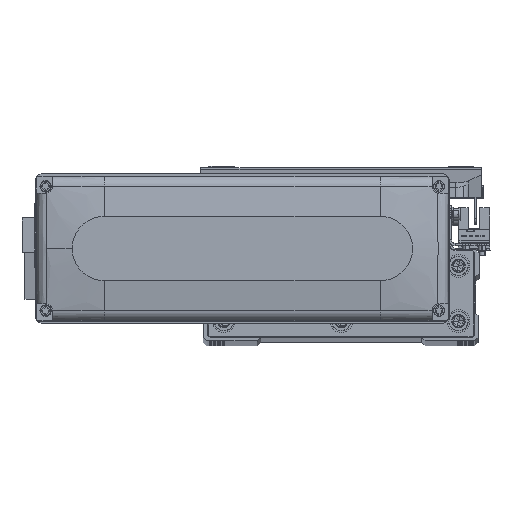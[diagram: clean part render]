
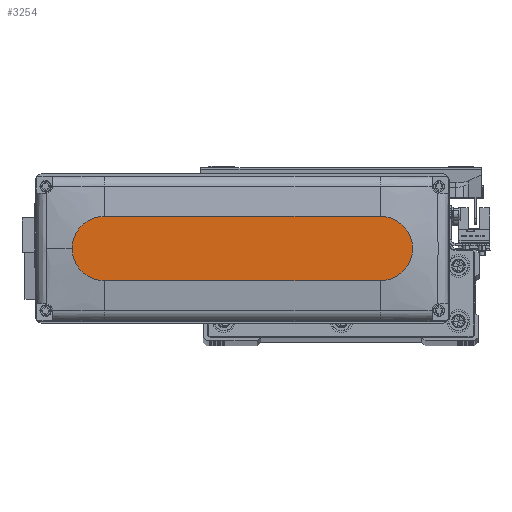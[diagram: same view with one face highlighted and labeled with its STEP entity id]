
A CAD part, top view. The second image highlights one B-rep face of the part: STEP entity #3254.
In plain terms, the highlighted planar face has unit normal (0, 0, 1).
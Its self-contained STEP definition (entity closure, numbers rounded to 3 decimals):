
#1863 = PLANE ( 'NONE',  #49221 ) ;
#1939 = DIRECTION ( 'NONE',  ( 1., 0., 0. ) ) ;
#2299 = EDGE_CURVE ( 'NONE', #3271, #24971, #29051, .T. ) ;
#3135 = CIRCLE ( 'NONE', #31141, 14. ) ;
#3254 = ADVANCED_FACE ( 'NONE', ( #35949 ), #1863, .T. ) ;
#3271 = VERTEX_POINT ( 'NONE', #28696 ) ;
#4261 = ORIENTED_EDGE ( 'NONE', *, *, #2299, .T. ) ;
#5719 = CARTESIAN_POINT ( 'NONE',  ( 60., 0., 28.5 ) ) ;
#5920 = VERTEX_POINT ( 'NONE', #25290 ) ;
#6472 = CIRCLE ( 'NONE', #29726, 14. ) ;
#8273 = CARTESIAN_POINT ( 'NONE',  ( 60., 0., 28.5 ) ) ;
#8317 = CARTESIAN_POINT ( 'NONE',  ( 74., 0., 28.5 ) ) ;
#13751 = DIRECTION ( 'NONE',  ( 0., 0., 1. ) ) ;
#17736 = CARTESIAN_POINT ( 'NONE',  ( -60., 0., 28.5 ) ) ;
#18294 = CARTESIAN_POINT ( 'NONE',  ( -60., 14., 28.5 ) ) ;
#19339 = DIRECTION ( 'NONE',  ( 1., 0., 0. ) ) ;
#20190 = CARTESIAN_POINT ( 'NONE',  ( 0., 0., 28.5 ) ) ;
#20545 = DIRECTION ( 'NONE',  ( -1., 0., 0. ) ) ;
#22903 = CARTESIAN_POINT ( 'NONE',  ( 60., -14., 28.5 ) ) ;
#23771 = CARTESIAN_POINT ( 'NONE',  ( -60., -14., 28.5 ) ) ;
#24182 = DIRECTION ( 'NONE',  ( 1., 0., 0. ) ) ;
#24203 = CIRCLE ( 'NONE', #36213, 14. ) ;
#24379 = LINE ( 'NONE', #23771, #31245 ) ;
#24523 = VECTOR ( 'NONE', #20545, 1000. ) ;
#24739 = EDGE_CURVE ( 'NONE', #33046, #3271, #3135, .T. ) ;
#24971 = VERTEX_POINT ( 'NONE', #18294 ) ;
#25290 = CARTESIAN_POINT ( 'NONE',  ( -60., -14., 28.5 ) ) ;
#25651 = ORIENTED_EDGE ( 'NONE', *, *, #39534, .T. ) ;
#25817 = EDGE_CURVE ( 'NONE', #5920, #49498, #24379, .T. ) ;
#25995 = EDGE_CURVE ( 'NONE', #49498, #33046, #6472, .T. ) ;
#26252 = DIRECTION ( 'NONE',  ( 1., 0., 0. ) ) ;
#26606 = ORIENTED_EDGE ( 'NONE', *, *, #25817, .T. ) ;
#28696 = CARTESIAN_POINT ( 'NONE',  ( 60., 14., 28.5 ) ) ;
#28938 = EDGE_LOOP ( 'NONE', ( #4261, #25651, #26606, #37448, #41369 ) ) ;
#29051 = LINE ( 'NONE', #47097, #24523 ) ;
#29726 = AXIS2_PLACEMENT_3D ( 'NONE', #5719, #13751, #1939 ) ;
#31141 = AXIS2_PLACEMENT_3D ( 'NONE', #8273, #46387, #19339 ) ;
#31245 = VECTOR ( 'NONE', #42788, 1000. ) ;
#33046 = VERTEX_POINT ( 'NONE', #8317 ) ;
#33514 = DIRECTION ( 'NONE',  ( 0., 0., 1. ) ) ;
#35949 = FACE_OUTER_BOUND ( 'NONE', #28938, .T. ) ;
#36213 = AXIS2_PLACEMENT_3D ( 'NONE', #17736, #33514, #26252 ) ;
#37448 = ORIENTED_EDGE ( 'NONE', *, *, #25995, .T. ) ;
#39534 = EDGE_CURVE ( 'NONE', #24971, #5920, #24203, .T. ) ;
#41369 = ORIENTED_EDGE ( 'NONE', *, *, #24739, .T. ) ;
#42788 = DIRECTION ( 'NONE',  ( 1., 0., 0. ) ) ;
#46387 = DIRECTION ( 'NONE',  ( 0., 0., 1. ) ) ;
#47097 = CARTESIAN_POINT ( 'NONE',  ( -60., 14., 28.5 ) ) ;
#47729 = DIRECTION ( 'NONE',  ( 0., 0., 1. ) ) ;
#49221 = AXIS2_PLACEMENT_3D ( 'NONE', #20190, #47729, #24182 ) ;
#49498 = VERTEX_POINT ( 'NONE', #22903 ) ;
